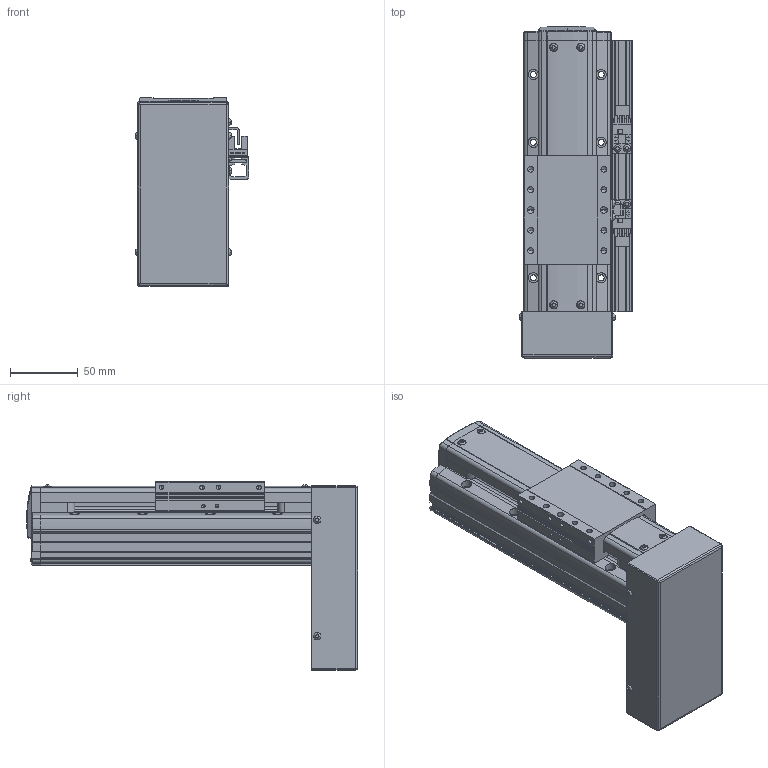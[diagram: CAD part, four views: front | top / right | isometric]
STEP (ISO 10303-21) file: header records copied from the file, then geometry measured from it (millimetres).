
FILE_DESCRIPTION(('STEP AP214'),'1');
FILE_NAME('Z:/Web/3D/PSA65/STP/PSA65-050 (3D)/PSA65ㅁㅁ-050PB+2SR.stp','2014-06-25T02:51:39',(' '),(' '),'Spatial InterOp 3D',' ',' ');
FILE_SCHEMA(('automotive_design'));
Length unit declared in the file: millimetre
Products named in the file (63): SLIDE; RRCV-PA060; 1; 2; 3; 4; 5; 6; 7; 8; 9; 10; 11; 12; 13; 14; 15; 16; 17; 18; 19; 20; 21; 22; 23; 24; 25; 26; 27; 28; 29; 30; 31; 스크루 : Round - M3.0 x 8.0; RN8 x 0.75; SHAFT-SAN65; BASE; 스크루 : Round - M3.0 x 6.0; BTCV-SAN65; M3.0 x 6.0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
Bounding box: 84.06 x 244.8 x 139 mm (x, y, z)
Volume: 1000135.3 mm3; surface area: 176602.2 mm2
Topology: 63 solids, 63 shells, 2025 faces, 5337 edges, 3443 vertices
Faces by surface type: plane 1292, cylinder 495, cone 157, sphere 46, bspline 19, torus 16
Entity records: 80438 total; most frequent: CARTESIAN_POINT 12515, DIRECTION 10690, ORIENTED_EDGE 10498, EDGE_CURVE 5249, LINE 3774, VECTOR 3774, AXIS2_PLACEMENT_3D 3458, VERTEX_POINT 3443
